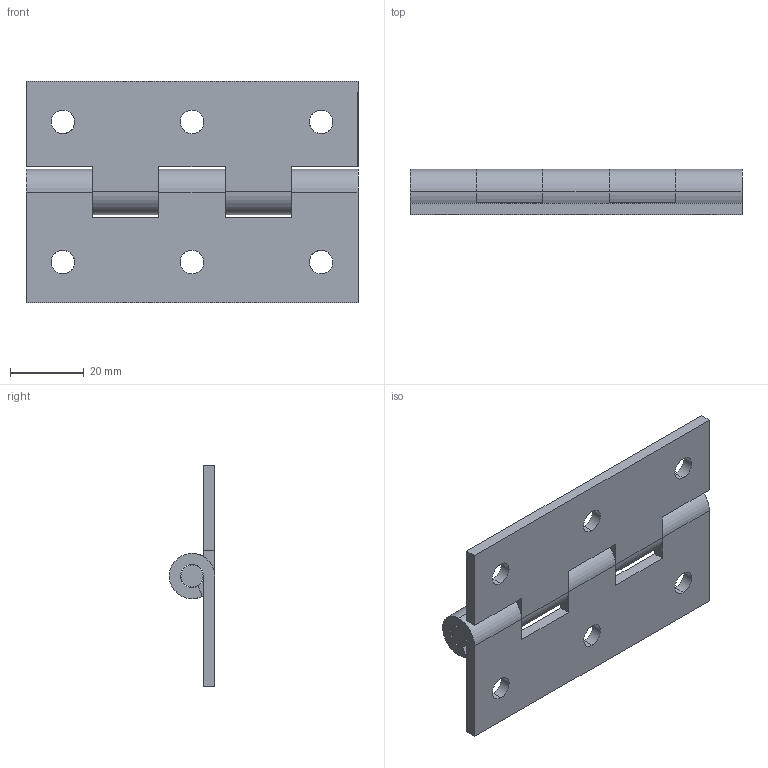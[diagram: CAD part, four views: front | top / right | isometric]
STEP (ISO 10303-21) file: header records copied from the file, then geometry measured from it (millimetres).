
FILE_DESCRIPTION (( 'STEP AP203' ), '1' );
FILE_NAME ('B18-18785.STEP', '2024-10-24T09:23:16', ( '' ), ( '' ), 'SwSTEP 2.0', 'SolidWorks 2021', '' );
FILE_SCHEMA (( 'CONFIG_CONTROL_DESIGN' ));
Length unit declared in the file: millimetre
Products named in the file (4): B18-107815-1; B18-18785; B18-107815-2; B18-6-90
Assembly tree (3 placements, depth 2):
  B18-18785
    B18-6-90
    B18-107815-1
    B18-107815-2
Bounding box: 90 x 12.3 x 60.01 mm (x, y, z)
Volume: 22900.2 mm3; surface area: 17959.3 mm2
Topology: 3 solids, 3 shells, 79 faces, 219 edges, 146 vertices
Faces by surface type: cylinder 44, plane 35
Entity records: 2987 total; most frequent: CARTESIAN_POINT 486, DIRECTION 453, ORIENTED_EDGE 438, EDGE_CURVE 219, AXIS2_PLACEMENT_3D 161, VERTEX_POINT 146, LINE 131, VECTOR 131
